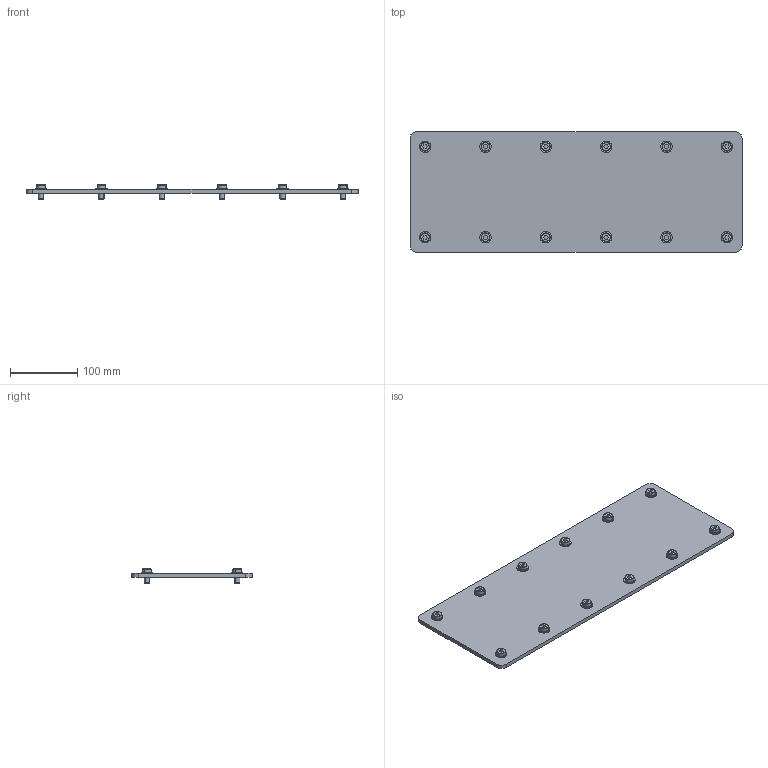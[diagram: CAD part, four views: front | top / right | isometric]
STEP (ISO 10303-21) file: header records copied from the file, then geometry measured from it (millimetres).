
FILE_DESCRIPTION (( 'STEP AP214' ), '1' );
FILE_NAME ('900.100.109.STEP', '2015-02-23T15:37:34', ( '' ), ( '' ), 'SwSTEP 2.0', 'SolidWorks 2012', '' );
FILE_SCHEMA (( 'AUTOMOTIVE_DESIGN' ));
Length unit declared in the file: millimetre
Products named in the file (4): 900.100.109; 084.301.000 VITI ALUSIC_084.301.002; 900.100.010; RONDELLE UNI 6592_8.4x17 UNI 6592
Assembly tree (25 placements, depth 2):
  900.100.109
    084.301.000 VITI ALUSIC_084.301.002  x12
    900.100.010
    RONDELLE UNI 6592_8.4x17 UNI 6592  x12
Bounding box: 495 x 180 x 21 mm (x, y, z)
Volume: 549019 mm3; surface area: 203835.5 mm2
Topology: 25 solids, 25 shells, 322 faces, 696 edges, 448 vertices
Faces by surface type: plane 150, cylinder 124, cone 24, torus 24
Entity records: 2158 total; most frequent: DIRECTION 396, CARTESIAN_POINT 328, ORIENTED_EDGE 292, AXIS2_PLACEMENT_3D 164, EDGE_CURVE 146, VERTEX_POINT 96, EDGE_LOOP 86, CIRCLE 78
